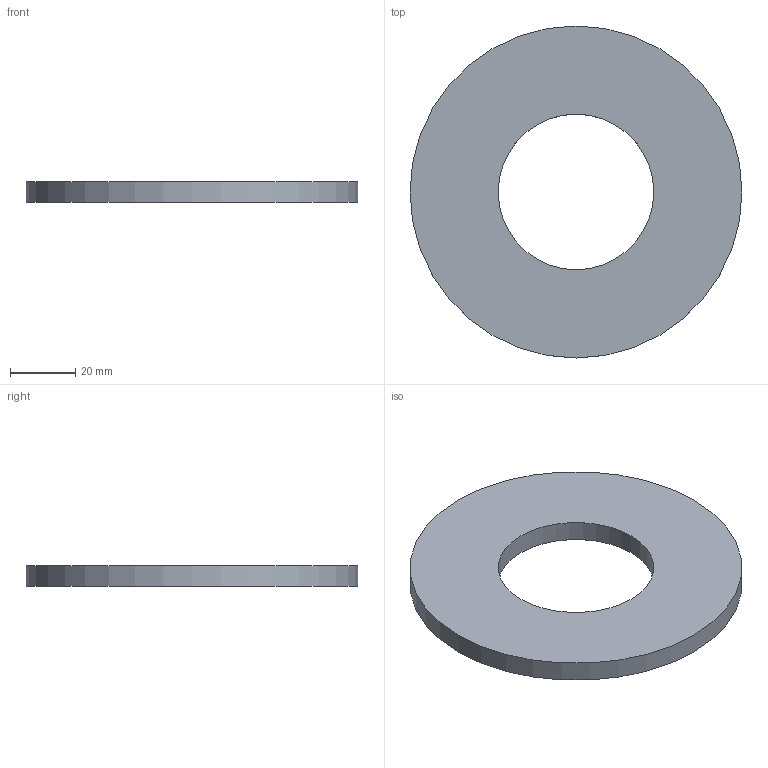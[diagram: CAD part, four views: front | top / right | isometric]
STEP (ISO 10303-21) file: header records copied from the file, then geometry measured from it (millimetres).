
FILE_DESCRIPTION(/* description */ (''),/* implementation_level */ '2;1');
FILE_NAME(/* name */ 'C:\001_Work\Designs\HLW\HLW-1.750.stp',/* time_stamp */ '2015-09-04T09:01:47-04:00',/* author */ ('rramoutar'),/* organization */ ('Mason Industries Inc.'),/* preprocessor_version */ 'ST-DEVELOPER v15.6',/* originating_system */ 'Autodesk Inventor 2015',/* authorisation */ '');
FILE_SCHEMA (('AUTOMOTIVE_DESIGN { 1 0 10303 214 3 1 1 }'));
Length unit declared in the file: inch
Products named in the file (1): HLW-1.750
Bounding box: 101.6 x 101.6 x 6.35 mm (x, y, z)
Volume: 40169.6 mm3; surface area: 15628.8 mm2
Topology: 1 solids, 1 shells, 4 faces, 6 edges, 4 vertices
Faces by surface type: cylinder 2, plane 2
Full cylindrical faces by diameter (mm): 47.625 x1, 101.6 x1
Entity records: 114 total; most frequent: DIRECTION 18, CARTESIAN_POINT 13, AXIS2_PLACEMENT_3D 9, EDGE_LOOP 8, ORIENTED_EDGE 8, FACE_BOUND 4, FACE_OUTER_BOUND 4, CIRCLE 4
